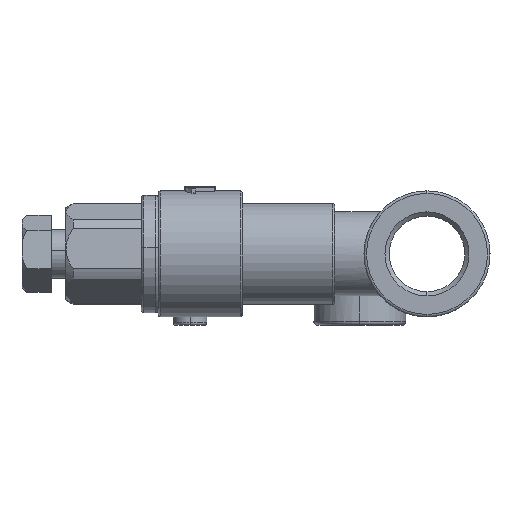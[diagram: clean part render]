
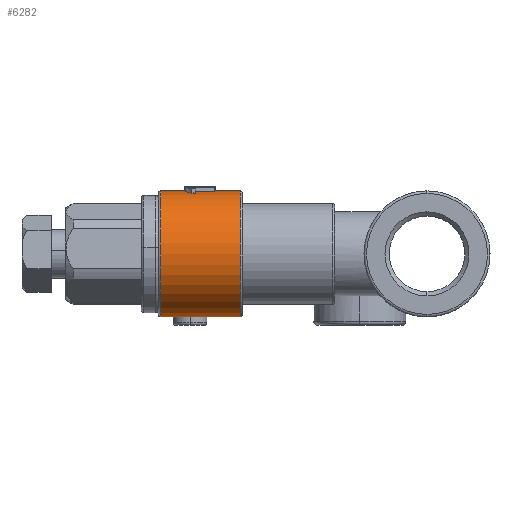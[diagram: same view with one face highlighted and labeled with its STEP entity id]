
A CAD part, left-side view. The second image highlights one B-rep face of the part: STEP entity #6282.
In plain terms, the highlighted cylindrical face has radius 7.5 mm (diameter 15 mm), a partial arc.
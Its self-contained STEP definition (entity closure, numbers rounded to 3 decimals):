
#998 = CARTESIAN_POINT ( 'NONE',  ( 2.726, 50.382, 126.504 ) ) ;
#1170 = ORIENTED_EDGE ( 'NONE', *, *, #2425, .F. ) ;
#1538 = VECTOR ( 'NONE', #3128, 1000. ) ;
#1998 = DIRECTION ( 'NONE',  ( 0., -1., 0. ) ) ;
#2425 = EDGE_CURVE ( 'NONE', #12109, #14355, #18896, .T. ) ;
#2771 = CARTESIAN_POINT ( 'NONE',  ( 2.726, 72.582, 119.004 ) ) ;
#3128 = DIRECTION ( 'NONE',  ( 0., -1., 0. ) ) ;
#5331 = CARTESIAN_POINT ( 'NONE',  ( 2.726, 50.382, 134.004 ) ) ;
#5569 = DIRECTION ( 'NONE',  ( 0., 0., 1. ) ) ;
#6205 = DIRECTION ( 'NONE',  ( 0., 0., -1. ) ) ;
#6282 = ADVANCED_FACE ( 'NONE', ( #7830 ), #7253, .T. ) ;
#6402 = CARTESIAN_POINT ( 'NONE',  ( 2.726, 82.082, 119.004 ) ) ;
#7253 = CYLINDRICAL_SURFACE ( 'NONE', #8694, 7.5 ) ;
#7752 = VERTEX_POINT ( 'NONE', #2771 ) ;
#7830 = FACE_OUTER_BOUND ( 'NONE', #18920, .T. ) ;
#7916 = CARTESIAN_POINT ( 'NONE',  ( 2.726, 72.582, 126.504 ) ) ;
#8122 = DIRECTION ( 'NONE',  ( 0., -1., 0. ) ) ;
#8694 = AXIS2_PLACEMENT_3D ( 'NONE', #998, #8122, #6205 ) ;
#9014 = VERTEX_POINT ( 'NONE', #6402 ) ;
#9180 = ORIENTED_EDGE ( 'NONE', *, *, #16515, .T. ) ;
#9339 = CARTESIAN_POINT ( 'NONE',  ( 2.726, 82.082, 126.504 ) ) ;
#9637 = EDGE_CURVE ( 'NONE', #12109, #9014, #21088, .T. ) ;
#12021 = CARTESIAN_POINT ( 'NONE',  ( 2.726, 50.382, 119.004 ) ) ;
#12109 = VERTEX_POINT ( 'NONE', #18703 ) ;
#12240 = EDGE_CURVE ( 'NONE', #7752, #14355, #20705, .T. ) ;
#12289 = AXIS2_PLACEMENT_3D ( 'NONE', #9339, #1998, #5569 ) ;
#14355 = VERTEX_POINT ( 'NONE', #18859 ) ;
#14884 = DIRECTION ( 'NONE',  ( 0., 0., -1. ) ) ;
#15823 = VECTOR ( 'NONE', #17782, 1000. ) ;
#16053 = AXIS2_PLACEMENT_3D ( 'NONE', #7916, #20408, #14884 ) ;
#16515 = EDGE_CURVE ( 'NONE', #9014, #7752, #22457, .T. ) ;
#17782 = DIRECTION ( 'NONE',  ( 0., -1., 0. ) ) ;
#18703 = CARTESIAN_POINT ( 'NONE',  ( 2.726, 82.082, 134.004 ) ) ;
#18783 = ORIENTED_EDGE ( 'NONE', *, *, #12240, .T. ) ;
#18859 = CARTESIAN_POINT ( 'NONE',  ( 2.726, 72.582, 134.004 ) ) ;
#18896 = LINE ( 'NONE', #5331, #15823 ) ;
#18920 = EDGE_LOOP ( 'NONE', ( #1170, #19089, #9180, #18783 ) ) ;
#19089 = ORIENTED_EDGE ( 'NONE', *, *, #9637, .T. ) ;
#20408 = DIRECTION ( 'NONE',  ( 0., 1., 0. ) ) ;
#20705 = CIRCLE ( 'NONE', #16053, 7.5 ) ;
#21088 = CIRCLE ( 'NONE', #12289, 7.5 ) ;
#22457 = LINE ( 'NONE', #12021, #1538 ) ;
